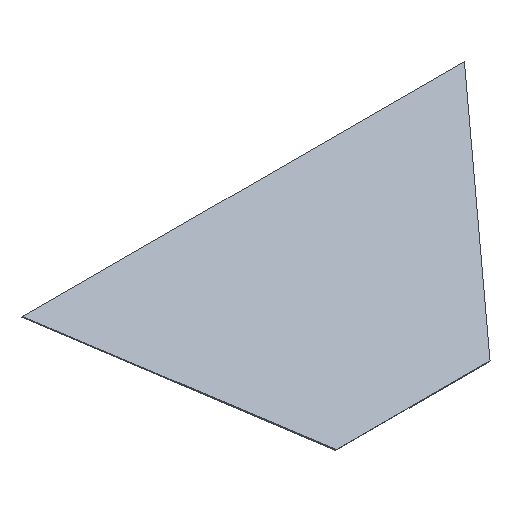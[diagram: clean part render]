
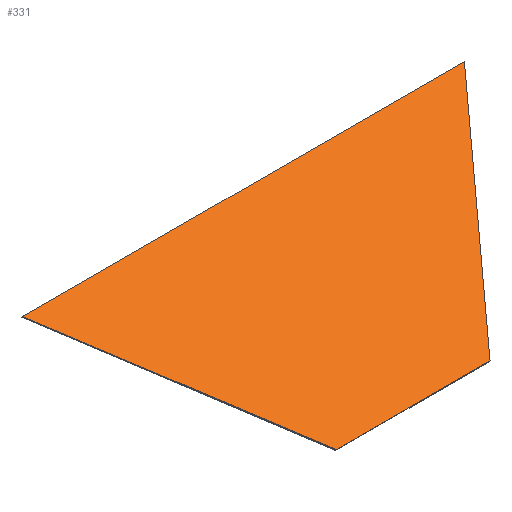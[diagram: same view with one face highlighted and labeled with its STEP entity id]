
A CAD part, isometric view. The second image highlights one B-rep face of the part: STEP entity #331.
In plain terms, the highlighted planar face has unit normal (0, -0.517, 0.856).
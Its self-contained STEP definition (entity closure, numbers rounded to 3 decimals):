
#22 = VERTEX_POINT('',#23);
#23 = CARTESIAN_POINT('',(600.,404.135,1593.151));
#32 = PLANE('',#33);
#33 = AXIS2_PLACEMENT_3D('',#34,#35,#36);
#34 = CARTESIAN_POINT('',(600.,404.135,1593.151));
#35 = DIRECTION('',(0.,0.856,0.517));
#36 = DIRECTION('',(-1.,0.,0.));
#44 = PLANE('',#45);
#45 = AXIS2_PLACEMENT_3D('',#46,#47,#48);
#46 = CARTESIAN_POINT('',(1725.,1729.135,
    2393.151));
#47 = DIRECTION('',(-0.809,0.503,0.304));
#48 = DIRECTION('',(-0.588,-0.692,-0.418));
#85 = VERTEX_POINT('',#86);
#86 = CARTESIAN_POINT('',(-600.,404.135,1593.151));
#100 = PLANE('',#101);
#101 = AXIS2_PLACEMENT_3D('',#102,#103,#104);
#102 = CARTESIAN_POINT('',(-600.,404.135,1593.151));
#103 = DIRECTION('',(0.809,0.503,0.304));
#104 = DIRECTION('',(-0.588,0.692,0.418));
#112 = EDGE_CURVE('',#22,#85,#113,.T.);
#113 = SURFACE_CURVE('',#114,(#118,#125),.PCURVE_S1.);
#114 = LINE('',#115,#116);
#115 = CARTESIAN_POINT('',(600.,404.135,1593.151));
#116 = VECTOR('',#117,1.);
#117 = DIRECTION('',(-1.,0.,0.));
#118 = PCURVE('',#32,#119);
#119 = DEFINITIONAL_REPRESENTATION('',(#120),#124);
#120 = LINE('',#121,#122);
#121 = CARTESIAN_POINT('',(0.,0.));
#122 = VECTOR('',#123,1.);
#123 = DIRECTION('',(1.,0.));
#124 = ( GEOMETRIC_REPRESENTATION_CONTEXT(2) 
PARAMETRIC_REPRESENTATION_CONTEXT() REPRESENTATION_CONTEXT('2D SPACE',''
  ) );
#125 = PCURVE('',#126,#131);
#126 = PLANE('',#127);
#127 = AXIS2_PLACEMENT_3D('',#128,#129,#130);
#128 = CARTESIAN_POINT('',(0.,1242.481,
    2099.323));
#129 = DIRECTION('',(-0.,0.517,-0.856));
#130 = DIRECTION('',(0.,-0.856,-0.517));
#131 = DEFINITIONAL_REPRESENTATION('',(#132),#136);
#132 = LINE('',#133,#134);
#133 = CARTESIAN_POINT('',(979.302,-600.));
#134 = VECTOR('',#135,1.);
#135 = DIRECTION('',(-0.,1.));
#136 = ( GEOMETRIC_REPRESENTATION_CONTEXT(2) 
PARAMETRIC_REPRESENTATION_CONTEXT() REPRESENTATION_CONTEXT('2D SPACE',''
  ) );
#166 = VERTEX_POINT('',#167);
#167 = CARTESIAN_POINT('',(-1725.,1729.135,
    2393.151));
#181 = PLANE('',#182);
#182 = AXIS2_PLACEMENT_3D('',#183,#184,#185);
#183 = CARTESIAN_POINT('',(-1725.,1729.135,
    2393.151));
#184 = DIRECTION('',(0.,-0.856,-0.517));
#185 = DIRECTION('',(1.,0.,0.));
#193 = EDGE_CURVE('',#85,#166,#194,.T.);
#194 = SURFACE_CURVE('',#195,(#199,#206),.PCURVE_S1.);
#195 = LINE('',#196,#197);
#196 = CARTESIAN_POINT('',(-600.,404.135,1593.151));
#197 = VECTOR('',#198,1.);
#198 = DIRECTION('',(-0.588,0.692,0.418));
#199 = PCURVE('',#100,#200);
#200 = DEFINITIONAL_REPRESENTATION('',(#201),#205);
#201 = LINE('',#202,#203);
#202 = CARTESIAN_POINT('',(0.,0.));
#203 = VECTOR('',#204,1.);
#204 = DIRECTION('',(1.,0.));
#205 = ( GEOMETRIC_REPRESENTATION_CONTEXT(2) 
PARAMETRIC_REPRESENTATION_CONTEXT() REPRESENTATION_CONTEXT('2D SPACE',''
  ) );
#206 = PCURVE('',#126,#207);
#207 = DEFINITIONAL_REPRESENTATION('',(#208),#212);
#208 = LINE('',#209,#210);
#209 = CARTESIAN_POINT('',(979.302,600.));
#210 = VECTOR('',#211,1.);
#211 = DIRECTION('',(-0.809,0.588));
#212 = ( GEOMETRIC_REPRESENTATION_CONTEXT(2) 
PARAMETRIC_REPRESENTATION_CONTEXT() REPRESENTATION_CONTEXT('2D SPACE',''
  ) );
#242 = VERTEX_POINT('',#243);
#243 = CARTESIAN_POINT('',(1725.,1729.135,
    2393.151));
#264 = EDGE_CURVE('',#166,#242,#265,.T.);
#265 = SURFACE_CURVE('',#266,(#270,#277),.PCURVE_S1.);
#266 = LINE('',#267,#268);
#267 = CARTESIAN_POINT('',(-1725.,1729.135,
    2393.151));
#268 = VECTOR('',#269,1.);
#269 = DIRECTION('',(1.,0.,0.));
#270 = PCURVE('',#181,#271);
#271 = DEFINITIONAL_REPRESENTATION('',(#272),#276);
#272 = LINE('',#273,#274);
#273 = CARTESIAN_POINT('',(0.,0.));
#274 = VECTOR('',#275,1.);
#275 = DIRECTION('',(1.,0.));
#276 = ( GEOMETRIC_REPRESENTATION_CONTEXT(2) 
PARAMETRIC_REPRESENTATION_CONTEXT() REPRESENTATION_CONTEXT('2D SPACE',''
  ) );
#277 = PCURVE('',#126,#278);
#278 = DEFINITIONAL_REPRESENTATION('',(#279),#283);
#279 = LINE('',#280,#281);
#280 = CARTESIAN_POINT('',(-568.478,1725.));
#281 = VECTOR('',#282,1.);
#282 = DIRECTION('',(0.,-1.));
#283 = ( GEOMETRIC_REPRESENTATION_CONTEXT(2) 
PARAMETRIC_REPRESENTATION_CONTEXT() REPRESENTATION_CONTEXT('2D SPACE',''
  ) );
#311 = EDGE_CURVE('',#242,#22,#312,.T.);
#312 = SURFACE_CURVE('',#313,(#317,#324),.PCURVE_S1.);
#313 = LINE('',#314,#315);
#314 = CARTESIAN_POINT('',(1725.,1729.135,
    2393.151));
#315 = VECTOR('',#316,1.);
#316 = DIRECTION('',(-0.588,-0.692,-0.418));
#317 = PCURVE('',#44,#318);
#318 = DEFINITIONAL_REPRESENTATION('',(#319),#323);
#319 = LINE('',#320,#321);
#320 = CARTESIAN_POINT('',(-0.,0.));
#321 = VECTOR('',#322,1.);
#322 = DIRECTION('',(1.,0.));
#323 = ( GEOMETRIC_REPRESENTATION_CONTEXT(2) 
PARAMETRIC_REPRESENTATION_CONTEXT() REPRESENTATION_CONTEXT('2D SPACE',''
  ) );
#324 = PCURVE('',#126,#325);
#325 = DEFINITIONAL_REPRESENTATION('',(#326),#330);
#326 = LINE('',#327,#328);
#327 = CARTESIAN_POINT('',(-568.478,-1725.));
#328 = VECTOR('',#329,1.);
#329 = DIRECTION('',(0.809,0.588));
#330 = ( GEOMETRIC_REPRESENTATION_CONTEXT(2) 
PARAMETRIC_REPRESENTATION_CONTEXT() REPRESENTATION_CONTEXT('2D SPACE',''
  ) );
#331 = ADVANCED_FACE('',(#332),#126,.F.);
#332 = FACE_BOUND('',#333,.F.);
#333 = EDGE_LOOP('',(#334,#335,#336,#337));
#334 = ORIENTED_EDGE('',*,*,#112,.T.);
#335 = ORIENTED_EDGE('',*,*,#193,.T.);
#336 = ORIENTED_EDGE('',*,*,#264,.T.);
#337 = ORIENTED_EDGE('',*,*,#311,.T.);
